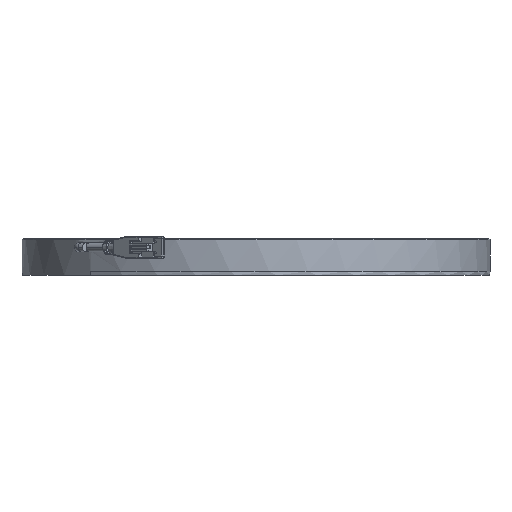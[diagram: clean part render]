
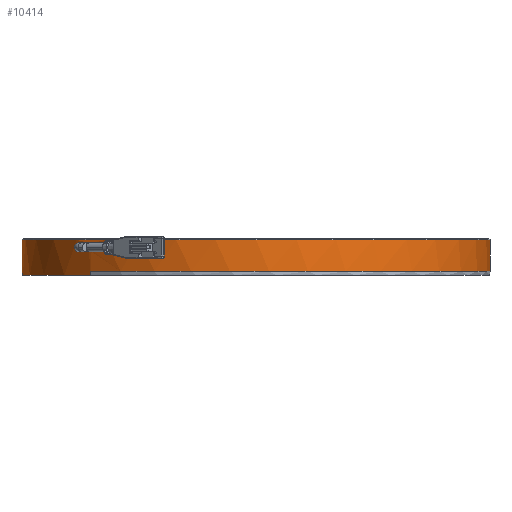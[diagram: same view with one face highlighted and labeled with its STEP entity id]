
A CAD part, left-side view. The second image highlights one B-rep face of the part: STEP entity #10414.
In plain terms, the highlighted cylindrical face has radius 115 mm (diameter 230 mm), a partial arc.
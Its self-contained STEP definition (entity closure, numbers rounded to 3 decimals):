
#388=CARTESIAN_POINT('',(0.,0.,-16.));
#389=DIRECTION('',(0.,0.,-1.));
#390=DIRECTION('',(-0.707,0.707,0.));
#391=AXIS2_PLACEMENT_3D('',#388,#389,#390);
#2834=CARTESIAN_POINT('',(0.,0.,1.5));
#2835=DIRECTION('',(0.,0.,1.));
#2836=DIRECTION('',(0.,1.,0.));
#2837=AXIS2_PLACEMENT_3D('',#2834,#2835,#2836);
#2839=CARTESIAN_POINT('',(0.,0.,-14.));
#2840=DIRECTION('',(0.,0.,-1.));
#2841=DIRECTION('',(0.,-1.,0.));
#2842=AXIS2_PLACEMENT_3D('',#2839,#2840,#2841);
#2844=DIRECTION('',(0.,0.,-1.));
#2845=VECTOR('',#2844,2.25);
#2846=CARTESIAN_POINT('',(-82.893,79.711,0.));
#2847=LINE('',#2846,#2845);
#2848=DIRECTION('',(0.,0.,1.));
#2849=VECTOR('',#2848,2.25);
#2850=CARTESIAN_POINT('',(-79.711,82.893,-2.25));
#2851=LINE('',#2850,#2849);
#2852=CARTESIAN_POINT('',(-79.711,82.893,-2.25));
#2853=CARTESIAN_POINT('',(-79.711,82.893,
-2.294));
#2854=CARTESIAN_POINT('',(-79.713,82.891,
-2.381));
#2855=CARTESIAN_POINT('',(-79.721,82.883,
-2.511));
#2856=CARTESIAN_POINT('',(-79.734,82.87,
-2.641));
#2857=CARTESIAN_POINT('',(-79.754,82.852,
-2.769));
#2858=CARTESIAN_POINT('',(-79.778,82.828,
-2.896));
#2859=CARTESIAN_POINT('',(-79.808,82.799,
-3.02));
#2860=CARTESIAN_POINT('',(-79.842,82.766,
-3.142));
#2861=CARTESIAN_POINT('',(-79.882,82.727,
-3.26));
#2862=CARTESIAN_POINT('',(-79.927,82.684,
-3.376));
#2863=CARTESIAN_POINT('',(-79.976,82.636,
-3.487));
#2864=CARTESIAN_POINT('',(-80.03,82.584,
-3.594));
#2865=CARTESIAN_POINT('',(-80.089,82.528,
-3.697));
#2866=CARTESIAN_POINT('',(-80.151,82.467,
-3.795));
#2867=CARTESIAN_POINT('',(-80.217,82.402,
-3.887));
#2868=CARTESIAN_POINT('',(-80.288,82.334,
-3.975));
#2869=CARTESIAN_POINT('',(-80.361,82.262,
-4.056));
#2870=CARTESIAN_POINT('',(-80.438,82.187,
-4.131));
#2871=CARTESIAN_POINT('',(-80.517,82.109,
-4.2));
#2872=CARTESIAN_POINT('',(-80.6,82.029,
-4.262));
#2873=CARTESIAN_POINT('',(-80.684,81.945,
-4.317));
#2874=CARTESIAN_POINT('',(-80.771,81.86,
-4.365));
#2875=CARTESIAN_POINT('',(-80.86,81.773,
-4.407));
#2876=CARTESIAN_POINT('',(-80.949,81.684,
-4.441));
#2877=CARTESIAN_POINT('',(-81.04,81.593,
-4.467));
#2878=CARTESIAN_POINT('',(-81.132,81.502,
-4.486));
#2879=CARTESIAN_POINT('',(-81.225,81.41,
-4.497));
#2880=CARTESIAN_POINT('',(-81.317,81.317,
-4.501));
#2881=CARTESIAN_POINT('',(-81.41,81.225,
-4.497));
#2882=CARTESIAN_POINT('',(-81.502,81.132,
-4.486));
#2883=CARTESIAN_POINT('',(-81.593,81.04,
-4.467));
#2884=CARTESIAN_POINT('',(-81.684,80.949,
-4.441));
#2885=CARTESIAN_POINT('',(-81.773,80.86,
-4.407));
#2886=CARTESIAN_POINT('',(-81.86,80.771,
-4.366));
#2887=CARTESIAN_POINT('',(-81.945,80.684,
-4.317));
#2888=CARTESIAN_POINT('',(-82.029,80.6,
-4.262));
#2889=CARTESIAN_POINT('',(-82.109,80.517,
-4.2));
#2890=CARTESIAN_POINT('',(-82.187,80.438,
-4.131));
#2891=CARTESIAN_POINT('',(-82.262,80.361,
-4.056));
#2892=CARTESIAN_POINT('',(-82.334,80.288,
-3.975));
#2893=CARTESIAN_POINT('',(-82.402,80.218,
-3.887));
#2894=CARTESIAN_POINT('',(-82.467,80.151,
-3.795));
#2895=CARTESIAN_POINT('',(-82.528,80.089,
-3.697));
#2896=CARTESIAN_POINT('',(-82.584,80.03,
-3.594));
#2897=CARTESIAN_POINT('',(-82.636,79.976,
-3.487));
#2898=CARTESIAN_POINT('',(-82.684,79.927,
-3.376));
#2899=CARTESIAN_POINT('',(-82.727,79.882,
-3.26));
#2900=CARTESIAN_POINT('',(-82.766,79.842,
-3.142));
#2901=CARTESIAN_POINT('',(-82.799,79.808,
-3.02));
#2902=CARTESIAN_POINT('',(-82.828,79.778,
-2.896));
#2903=CARTESIAN_POINT('',(-82.852,79.754,
-2.769));
#2904=CARTESIAN_POINT('',(-82.87,79.734,
-2.641));
#2905=CARTESIAN_POINT('',(-82.883,79.721,
-2.511));
#2906=CARTESIAN_POINT('',(-82.891,79.713,
-2.381));
#2907=CARTESIAN_POINT('',(-82.893,79.711,
-2.294));
#2908=CARTESIAN_POINT('',(-82.893,79.711,-2.25));
#2910=CARTESIAN_POINT('',(0.,0.,-14.));
#2911=DIRECTION('',(0.,0.,-1.));
#2912=DIRECTION('',(0.,1.,0.));
#2913=AXIS2_PLACEMENT_3D('',#2910,#2911,#2912);
#2915=DIRECTION('',(0.,0.,1.));
#2916=VECTOR('',#2915,2.);
#2917=CARTESIAN_POINT('',(81.317,-81.317,-16.));
#2918=LINE('',#2917,#2916);
#2919=DIRECTION('',(0.,0.,-1.));
#2920=VECTOR('',#2919,2.);
#2921=CARTESIAN_POINT('',(-81.317,81.317,-14.));
#2922=LINE('',#2921,#2920);
#2923=DIRECTION('',(0.,0.,1.));
#2924=VECTOR('',#2923,15.5);
#2925=CARTESIAN_POINT('',(0.,-115.,-14.));
#2926=LINE('',#2925,#2924);
#2927=DIRECTION('',(0.,0.,-1.));
#2928=VECTOR('',#2927,15.5);
#2929=CARTESIAN_POINT('',(0.,115.,1.5));
#2930=LINE('',#2929,#2928);
#2993=CARTESIAN_POINT('',(0.,0.,0.));
#2994=DIRECTION('',(0.,0.,-1.));
#2995=DIRECTION('',(-0.721,0.693,0.));
#2996=AXIS2_PLACEMENT_3D('',#2993,#2994,#2995);
#4986=CARTESIAN_POINT('',(0.,115.,1.5));
#4987=CARTESIAN_POINT('',(0.,-115.,1.5));
#4988=VERTEX_POINT('',#4986);
#4989=VERTEX_POINT('',#4987);
#5083=CARTESIAN_POINT('',(-81.317,81.317,-16.));
#5084=CARTESIAN_POINT('',(81.317,-81.317,-16.));
#5085=VERTEX_POINT('',#5083);
#5086=VERTEX_POINT('',#5084);
#6031=CARTESIAN_POINT('',(-79.711,82.893,0.));
#6032=VERTEX_POINT('',#6031);
#6033=CARTESIAN_POINT('',(-82.893,79.711,0.));
#6034=VERTEX_POINT('',#6033);
#6035=CARTESIAN_POINT('',(0.,-115.,-14.));
#6036=CARTESIAN_POINT('',(-81.317,81.317,-14.));
#6037=VERTEX_POINT('',#6035);
#6038=VERTEX_POINT('',#6036);
#6039=CARTESIAN_POINT('',(0.,115.,-14.));
#6040=CARTESIAN_POINT('',(81.317,-81.317,-14.));
#6041=VERTEX_POINT('',#6039);
#6042=VERTEX_POINT('',#6040);
#6131=CARTESIAN_POINT('',(-79.711,82.893,-2.25));
#6133=VERTEX_POINT('',#6131);
#6135=CARTESIAN_POINT('',(-82.893,79.711,-2.25));
#6137=VERTEX_POINT('',#6135);
#10383=CARTESIAN_POINT('',(0.,0.,0.7));
#10384=DIRECTION('',(0.,0.,-1.));
#10385=DIRECTION('',(0.,-1.,0.));
#10386=AXIS2_PLACEMENT_3D('',#10383,#10384,#10385);
#10387=CYLINDRICAL_SURFACE('',#10386,115.);
#10389=ORIENTED_EDGE('',*,*,#10388,.T.);
#10391=ORIENTED_EDGE('',*,*,#10390,.T.);
#10392=ORIENTED_EDGE('',*,*,#6662,.T.);
#10394=ORIENTED_EDGE('',*,*,#10393,.T.);
#10396=ORIENTED_EDGE('',*,*,#10395,.F.);
#10398=ORIENTED_EDGE('',*,*,#10397,.F.);
#10399=ORIENTED_EDGE('',*,*,#10376,.T.);
#10401=ORIENTED_EDGE('',*,*,#10400,.F.);
#10402=EDGE_LOOP('',(#10389,#10391,#10392,#10394,#10396,#10398,#10399,#10401));
#10403=FACE_OUTER_BOUND('',#10402,.F.);
#10405=ORIENTED_EDGE('',*,*,#10404,.F.);
#10407=ORIENTED_EDGE('',*,*,#10406,.T.);
#10409=ORIENTED_EDGE('',*,*,#10408,.F.);
#10411=ORIENTED_EDGE('',*,*,#10410,.T.);
#10412=EDGE_LOOP('',(#10405,#10407,#10409,#10411));
#10413=FACE_BOUND('',#10412,.F.);
#10414=ADVANCED_FACE('',(#10403,#10413),#10387,.T.);
#392=CIRCLE('',#391,115.);
#2838=CIRCLE('',#2837,115.);
#2843=CIRCLE('',#2842,115.);
#2909=B_SPLINE_CURVE_WITH_KNOTS('',3,(#2852,#2853,#2854,#2855,#2856,#2857,#2858,
#2859,#2860,#2861,#2862,#2863,#2864,#2865,#2866,#2867,#2868,#2869,#2870,#2871,
#2872,#2873,#2874,#2875,#2876,#2877,#2878,#2879,#2880,#2881,#2882,#2883,#2884,
#2885,#2886,#2887,#2888,#2889,#2890,#2891,#2892,#2893,#2894,#2895,#2896,#2897,
#2898,#2899,#2900,#2901,#2902,#2903,#2904,#2905,#2906,#2907,#2908),
.UNSPECIFIED.,.F.,.F.,(4,1,1,1,1,1,1,1,1,1,1,1,1,1,1,1,1,1,1,1,1,1,1,1,1,1,1,1,
1,1,1,1,1,1,1,1,1,1,1,1,1,1,1,1,1,1,1,1,1,1,1,1,1,1,4),(0.,0.019,
0.037,0.056,0.074,0.093,
0.111,0.13,0.148,0.167,
0.185,0.204,0.222,0.241,
0.259,0.278,0.296,0.315,
0.333,0.352,0.37,0.389,
0.407,0.426,0.444,0.463,
0.481,0.5,0.519,0.537,0.556,
0.574,0.593,0.611,0.63,
0.648,0.667,0.685,0.704,
0.722,0.741,0.759,0.778,
0.796,0.815,0.833,0.852,
0.87,0.889,0.907,0.926,
0.944,0.963,0.981,1.),.UNSPECIFIED.);
#2914=CIRCLE('',#2913,115.);
#2997=CIRCLE('',#2996,115.);
#6662=EDGE_CURVE('',#5085,#5086,#392,.T.);
#10376=EDGE_CURVE('',#4988,#4989,#2838,.T.);
#10388=EDGE_CURVE('',#6037,#6038,#2843,.T.);
#10390=EDGE_CURVE('',#6038,#5085,#2922,.T.);
#10393=EDGE_CURVE('',#5086,#6042,#2918,.T.);
#10395=EDGE_CURVE('',#6041,#6042,#2914,.T.);
#10397=EDGE_CURVE('',#4988,#6041,#2930,.T.);
#10400=EDGE_CURVE('',#6037,#4989,#2926,.T.);
#10404=EDGE_CURVE('',#6034,#6137,#2847,.T.);
#10406=EDGE_CURVE('',#6034,#6032,#2997,.T.);
#10408=EDGE_CURVE('',#6133,#6032,#2851,.T.);
#10410=EDGE_CURVE('',#6133,#6137,#2909,.T.);
